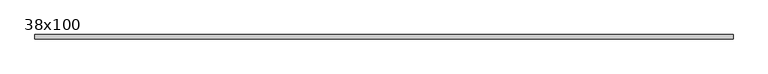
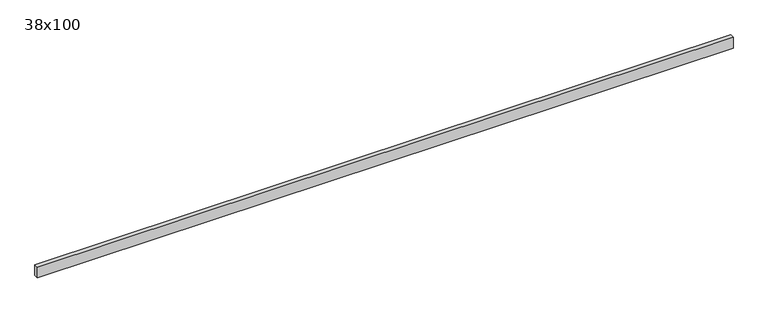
"""IFC4 building model written with IfcOpenShell, lengths in millimetres: beam geometry, Poutre - Bois de construction de dimensions courantes : 38x100."""

from ifc_helpers import new_model, si_unit, frame, origin, place, context, project, spatial, polyline, outline, extrude, source, transform, mapped, element, save


def beam_38x100_87d5f32b(model_context):
    return source(origin(), model_context, "Body", "SweptSolid", [
        extrude(outline(polyline([(3081.0, 19.05), (3081.0, -19.05), (-3081.0, -19.05), (-3081.0, 19.05), (3081.0, 19.05)])), frame((0.0, 0.0, -50.0), z_axis=(0.0, 0.0, 1.0), x_axis=(1.0, 0.0, 0.0)), (0.0, 0.0, 1.0), 100.0),
    ])


if __name__ == "__main__":
    model = new_model("IFC4")
    model_context = context("Model", 3, world=origin())
    ifc_project = project(units=[si_unit("LENGTHUNIT", "METRE", prefix="MILLI")], contexts=[model_context])
    site = spatial("IfcSite", under=ifc_project)
    building = spatial("IfcBuilding", under=site)
    placement = place(None, origin())
    beam_38x100_shape = beam_38x100_87d5f32b(model_context)
    element("IfcBeam", 1, ObjectType="Poutre - Bois de construction de dimensions courantes : 38x100", at=placement, inside=building, context=model_context, shape_type="MappedRepresentation", body=[
        mapped(beam_38x100_shape, transform((0.0, 0.0, 0.0), x_axis=(1.0, 0.0, 0.0), y_axis=(0.0, 1.0, 0.0), z_axis=(0.0, 0.0, 1.0))),
    ])
    save(model, "model.ifc")
